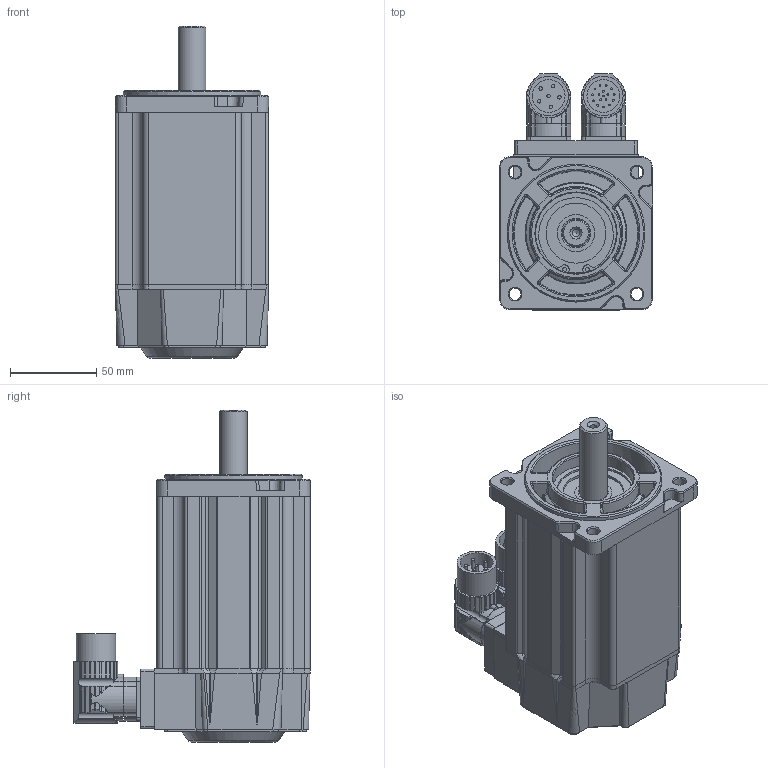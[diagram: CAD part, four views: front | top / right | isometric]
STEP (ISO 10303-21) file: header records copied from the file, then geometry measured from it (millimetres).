
FILE_DESCRIPTION((''),'2;1');
FILE_NAME('C:\CAD_work\Dummy_Modeling_Project_02-12-05\3D MODELS\MPP0922XXX_NPSN.stp','2005-12-20T16:26:17',('jevans'),(''),'Autodesk Inventor 10','Autodesk Inventor 10','');
FILE_SCHEMA(('AUTOMOTIVE_DESIGN { 1 0 10303 214 1 1 1 1 }'));
Length unit declared in the file: inch
Products named in the file (1): MPP092_MOTOR
Bounding box: 88.9 x 137.01 x 192.74 mm (x, y, z)
Volume: 1081659.9 mm3; surface area: 96473.5 mm2
Topology: 1 solids, 1 shells, 797 faces, 2073 edges, 1309 vertices
Faces by surface type: bspline 302, cylinder 249, plane 211, cone 24, torus 11
Full cylindrical faces by diameter (mm): 1.016 x17, 1.956 x6, 2.362 x2, 15.999 x1, 16.002 x1, 19.05 x1, 19.66 x1, 21.59 x1, 22.86 x1, 34.823 x1, 46.253 x1, 46.761 x1, 47.015 x2, 49.835 x1, 52.324 x1, 74.93 x1, 80 x1
Entity records: 35727 total; most frequent: CARTESIAN_POINT 18205, ORIENTED_EDGE 3998, DIRECTION 3012, EDGE_CURVE 1999, VERTEX_POINT 1299, AXIS2_PLACEMENT_3D 1127, EDGE_LOOP 924, FACE_OUTER_BOUND 797
